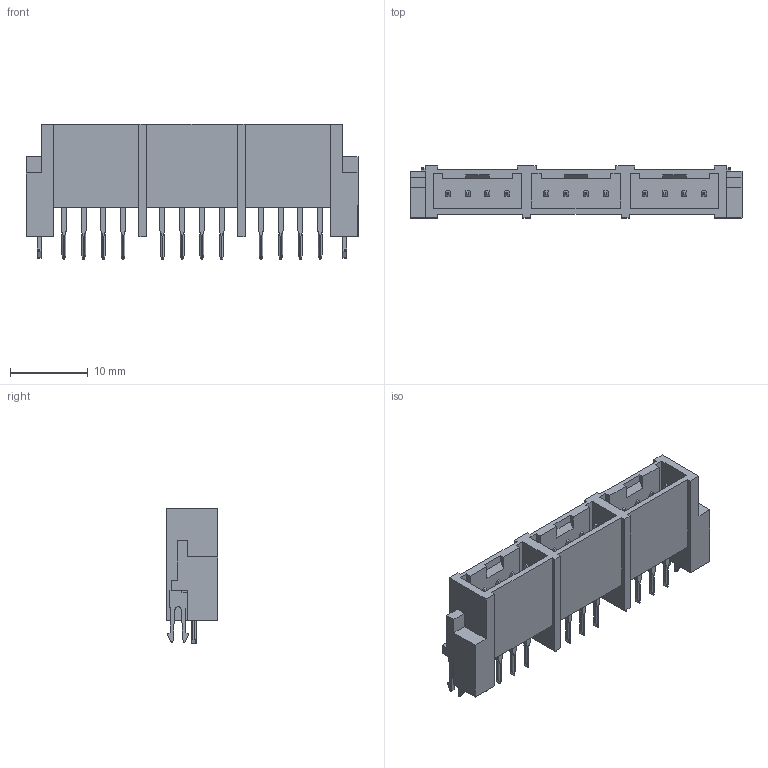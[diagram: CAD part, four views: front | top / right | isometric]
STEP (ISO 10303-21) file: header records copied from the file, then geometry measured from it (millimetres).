
FILE_DESCRIPTION (( 'STEP AP203' ), '1' );
FILE_NAME ('232D-12P1X-S15A-FA.STEP', '2022-03-02T09:46:26', ( '' ), ( '' ), 'SwSTEP 2.0', 'SolidWorks 2018', '' );
FILE_SCHEMA (( 'CONFIG_CONTROL_DESIGN' ));
Length unit declared in the file: millimetre
Products named in the file (1): 232D-12P1X-S15A-FA
Bounding box: 42.8 x 6.7 x 17.5 mm (x, y, z)
Volume: 1703.2 mm3; surface area: 2949.9 mm2
Topology: 1 solids, 1 shells, 536 faces, 1532 edges, 1020 vertices
Faces by surface type: plane 410, cylinder 126
Entity records: 17645 total; most frequent: CARTESIAN_POINT 4097, ORIENTED_EDGE 3064, DIRECTION 2474, EDGE_CURVE 1532, LINE 1184, VECTOR 1184, VERTEX_POINT 1020, AXIS2_PLACEMENT_3D 645
